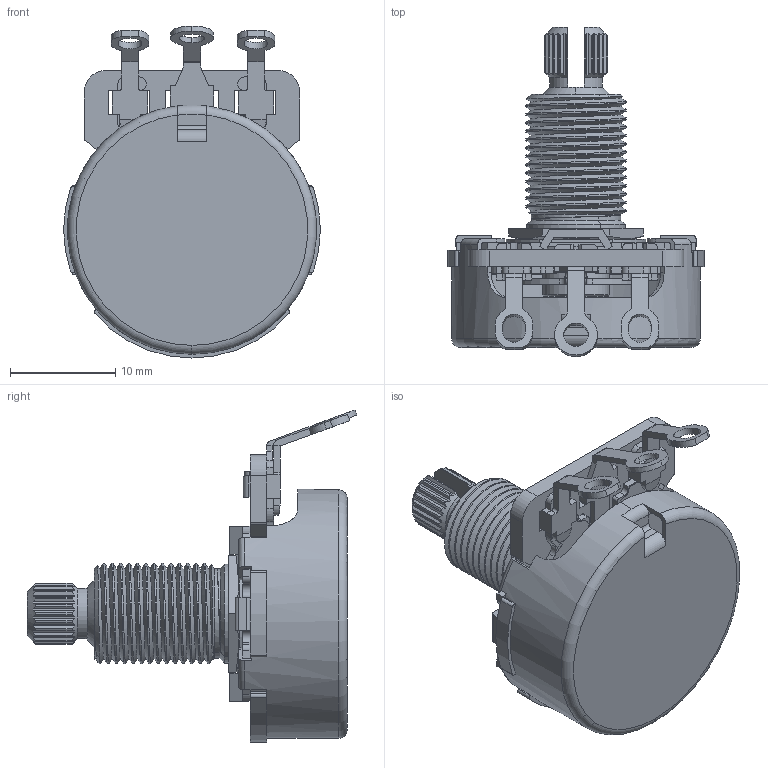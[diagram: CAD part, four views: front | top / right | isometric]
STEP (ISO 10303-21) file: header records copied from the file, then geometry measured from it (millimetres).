
FILE_DESCRIPTION (( 'STEP AP214' ), '1' );
FILE_NAME ('450GT46K254A2S.STEP', '2019-05-27T01:39:51', ( '' ), ( '' ), 'SwSTEP 2.0', 'SolidWorks 2019', '' );
FILE_SCHEMA (( 'AUTOMOTIVE_DESIGN' ));
Length unit declared in the file: millimetre
Products named in the file (10): 450GT46K254A2S; 450B-8; 13M450S9256T; 450F-23 for T450AEDF; 450 element; 450A-104G; 450D-17 for T450AEDF; T450AEDF(For 104G); P45Q(stamp for 450GT36K504B2S)_Flat Bottom_45Q54 withFenderTradeMark_NewDetentSetting_07102012; 45C-2Z-no lug
Assembly tree (10 placements, depth 3):
  450GT46K254A2S
    P45Q(stamp for 450GT36K504B2S)_Flat Bottom_45Q54 withFenderTradeMark_NewDetentSetting_07102012
    T450AEDF(For 104G)
      450A-104G
      450D-17 for T450AEDF
      450 element
      450F-23 for T450AEDF  x2
    45C-2Z-no lug
    450B-8
    13M450S9256T
Bounding box: 24.33 x 31.26 x 31.47 mm (x, y, z)
Volume: 2859.8 mm3; surface area: 6890.5 mm2
Topology: 9 solids, 9 shells, 765 faces, 2155 edges, 1408 vertices
Faces by surface type: plane 447, cylinder 270, cone 28, torus 18, bspline 2
Entity records: 25056 total; most frequent: CARTESIAN_POINT 6570, ORIENTED_EDGE 3944, DIRECTION 3664, EDGE_CURVE 1972, VERTEX_POINT 1291, AXIS2_PLACEMENT_3D 1249, VECTOR 1166, LINE 1166
